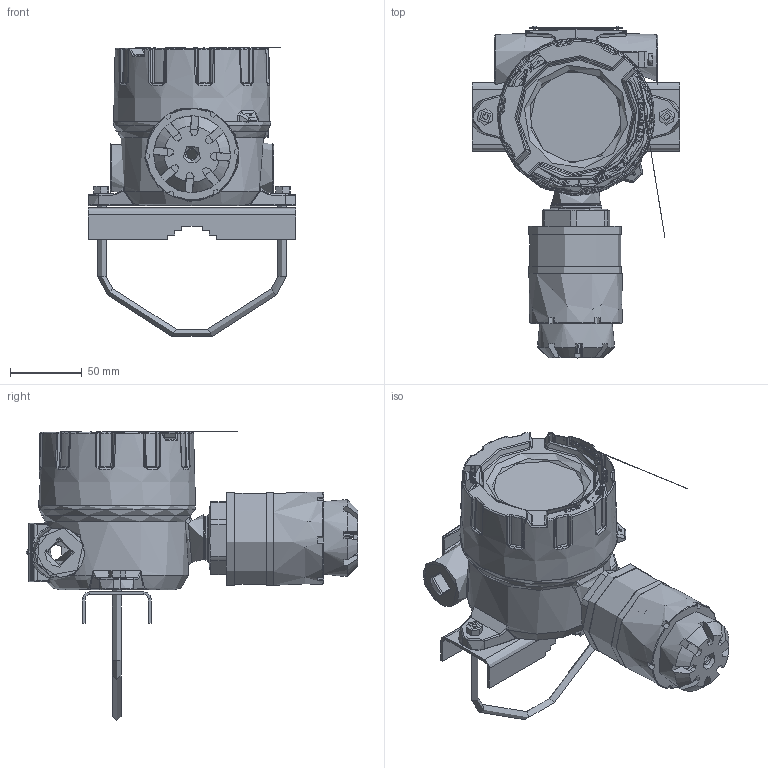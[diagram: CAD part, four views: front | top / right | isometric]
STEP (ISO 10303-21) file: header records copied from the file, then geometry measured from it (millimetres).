
FILE_DESCRIPTION(('STEP AP214'), '1');
FILE_NAME('ÄÃÑ Ýðèñ-210_Êîðïóñ', '', ('UNSPECIFIED'), ('UNSPECIFIED'), 'ASCON STEP Converter 1.3', 'ASCON Math Kernel', '');
FILE_SCHEMA(('AUTOMOTIVE_DESIGN { 1 0 10303 214 3 1 1}'));
Length unit declared in the file: millimetre
Products named in the file (22): korpus XD-I-obrobka - KU12-15; USZCZELKA XD-I ; podklladka PTN-1,5; podkl. M4; wkret PTN-1,5; podkladka. ET4; podkl. M5; wkret ETN-4; L4357- Pokrywa XD-ILwin - obrobka - napis w j.rosyjskim - ku13-16; L1652.1; L2239-piersc W95x3.; wkrêt blok M3; 橾迕.413216.210.06.01-06; jin75D2nz67; 橾迕.413216.022.01; 橾迕.413216.022.02; 橾迕.413216.210.12
Assembly tree (23 placements, depth 3):
  (unnamed)
    (unnamed)
      korpus XD-I-obrobka - KU12-15
      USZCZELKA XD-I 
      podklladka PTN-1,5
      podkl. M4
      wkret PTN-1,5
      podkladka. ET4
      podkl. M5
      wkret ETN-4
    (unnamed)
      L4357- Pokrywa XD-ILwin - obrobka - napis w j.rosyjskim - ku13-16
      L1652.1
      L2239-piersc W95x3.
      wkrêt blok M3
    橾迕.413216.210.06.01-06
    jin75D2nz67
    橾迕.413216.022.01
    橾迕.413216.022.02
    (unnamed)  x2
    橾迕.413216.210.12
    (unnamed)  x2
Bounding box: 145 x 231.9 x 201.69 mm (x, y, z)
Volume: 247440.8 mm3; surface area: 247757.5 mm2
Topology: 19 solids, 21 shells, 4400 faces, 12032 edges, 7706 vertices
Faces by surface type: plane 2077, extrusion 1417, bspline 306, cylinder 284, cone 133, torus 113, sphere 70
Full cylindrical faces by diameter (mm): 0.75 x12, 2 x5, 2.459 x11, 2.5 x2, 2.6 x1, 2.8 x1, 3 x1, 3.242 x1, 3.5 x2, 3.6 x3, 3.9 x1, 4 x1, 4.1 x1, 4.134 x1, 4.5 x1, 4.9 x1, 4.917 x2, 5 x1, 5.1 x1, 6 x5, 7 x1, 7.28 x1, 7.95 x8, 8.28 x1, 8.4 x1, 10.106 x1, 17 x1, 18.376 x3, 20 x1, 30 x3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
Entity records: 201436 total; most frequent: CARTESIAN_POINT 65439, ORIENTED_EDGE 22608, DIRECTION 15301, EDGE_CURVE 11304, VECTOR 7785, VERTEX_POINT 7506, LINE 6368, B_SPLINE_CURVE_WITH_KNOTS 5274
